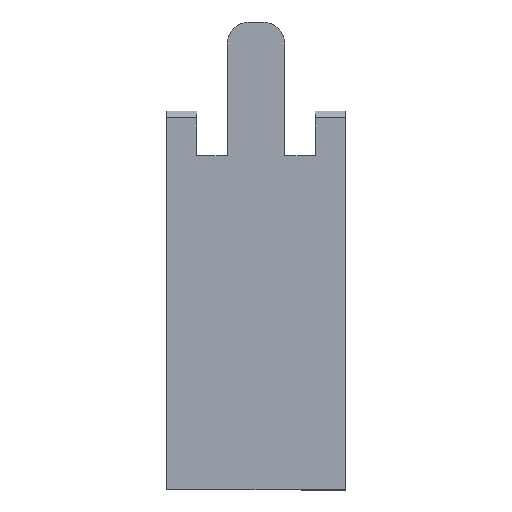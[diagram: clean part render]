
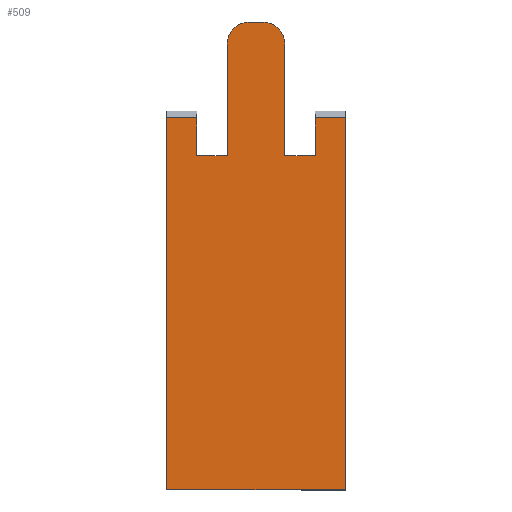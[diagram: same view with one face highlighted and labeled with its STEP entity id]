
A CAD part, top view. The second image highlights one B-rep face of the part: STEP entity #509.
In plain terms, the highlighted planar face has unit normal (0, 0, 1).
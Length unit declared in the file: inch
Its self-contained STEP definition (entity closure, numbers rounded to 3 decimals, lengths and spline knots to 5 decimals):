
#3 = VECTOR ( 'NONE', #367, 39.37008 ) ;
#5 = VECTOR ( 'NONE', #158, 39.37008 ) ;
#6 = CARTESIAN_POINT ( 'NONE',  ( -0.065, 1.4, 0.045 ) ) ;
#9 = CARTESIAN_POINT ( 'NONE',  ( 0.065, 1.15, 0.045 ) ) ;
#22 = DIRECTION ( 'NONE',  ( -1., 0., 0. ) ) ;
#33 = ORIENTED_EDGE ( 'NONE', *, *, #230, .T. ) ;
#36 = ORIENTED_EDGE ( 'NONE', *, *, #306, .T. ) ;
#38 = EDGE_LOOP ( 'NONE', ( #558, #574, #352, #36, #653, #572, #184, #580, #519, #494, #108, #110, #33, #214 ) ) ;
#39 = VECTOR ( 'NONE', #642, 39.37008 ) ;
#53 = LINE ( 'NONE', #397, #493 ) ;
#71 = DIRECTION ( 'NONE',  ( 0., -1., 0. ) ) ;
#75 = CARTESIAN_POINT ( 'NONE',  ( 0.1325, 1.235, 0.045 ) ) ;
#84 = DIRECTION ( 'NONE',  ( -1., 0., 0. ) ) ;
#100 = EDGE_CURVE ( 'NONE', #228, #526, #53, .T. ) ;
#106 = DIRECTION ( 'NONE',  ( 0., -1., 0. ) ) ;
#108 = ORIENTED_EDGE ( 'NONE', *, *, #536, .T. ) ;
#110 = ORIENTED_EDGE ( 'NONE', *, *, #100, .T. ) ;
#115 = LINE ( 'NONE', #274, #468 ) ;
#120 = DIRECTION ( 'NONE',  ( 1., 0., 0. ) ) ;
#126 = LINE ( 'NONE', #564, #39 ) ;
#127 = CARTESIAN_POINT ( 'NONE',  ( -0.015, 1.4, 0.045 ) ) ;
#129 = CIRCLE ( 'NONE', #469, 0.05 ) ;
#136 = DIRECTION ( 'NONE',  ( 0., 1., 0. ) ) ;
#142 = AXIS2_PLACEMENT_3D ( 'NONE', #501, #405, #247 ) ;
#145 = EDGE_CURVE ( 'NONE', #186, #583, #654, .T. ) ;
#146 = CARTESIAN_POINT ( 'NONE',  ( -0.065, 1.15, 0.045 ) ) ;
#158 = DIRECTION ( 'NONE',  ( 0., 1., 0. ) ) ;
#161 = CARTESIAN_POINT ( 'NONE',  ( -0.2, 1.235, 0.045 ) ) ;
#167 = VECTOR ( 'NONE', #22, 39.37008 ) ;
#171 = EDGE_CURVE ( 'NONE', #466, #502, #467, .T. ) ;
#180 = LINE ( 'NONE', #585, #492 ) ;
#181 = VECTOR ( 'NONE', #84, 39.37008 ) ;
#184 = ORIENTED_EDGE ( 'NONE', *, *, #413, .T. ) ;
#186 = VERTEX_POINT ( 'NONE', #9 ) ;
#195 = VERTEX_POINT ( 'NONE', #6 ) ;
#202 = DIRECTION ( 'NONE',  ( 0., -1., 0. ) ) ;
#204 = CARTESIAN_POINT ( 'NONE',  ( -0.1325, 1.235, 0.045 ) ) ;
#212 = LINE ( 'NONE', #613, #429 ) ;
#214 = ORIENTED_EDGE ( 'NONE', *, *, #541, .F. ) ;
#219 = AXIS2_PLACEMENT_3D ( 'NONE', #573, #312, #534 ) ;
#225 = CARTESIAN_POINT ( 'NONE',  ( -0.1325, 1.15, 0.045 ) ) ;
#228 = VERTEX_POINT ( 'NONE', #204 ) ;
#229 = LINE ( 'NONE', #318, #167 ) ;
#230 = EDGE_CURVE ( 'NONE', #526, #615, #212, .T. ) ;
#236 = CARTESIAN_POINT ( 'NONE',  ( 0.2, 0.4, 0.045 ) ) ;
#245 = CARTESIAN_POINT ( 'NONE',  ( 0.065, 1.25, 0.045 ) ) ;
#247 = DIRECTION ( 'NONE',  ( 1., 0., 0. ) ) ;
#260 = EDGE_CURVE ( 'NONE', #656, #309, #315, .T. ) ;
#274 = CARTESIAN_POINT ( 'NONE',  ( 0.2, 0.4, 0.045 ) ) ;
#295 = EDGE_CURVE ( 'NONE', #423, #195, #129, .T. ) ;
#297 = DIRECTION ( 'NONE',  ( -1., 0., 0. ) ) ;
#306 = EDGE_CURVE ( 'NONE', #502, #186, #229, .T. ) ;
#307 = VECTOR ( 'NONE', #425, 39.37008 ) ;
#309 = VERTEX_POINT ( 'NONE', #225 ) ;
#312 = DIRECTION ( 'NONE',  ( 0., 0., 1. ) ) ;
#315 = LINE ( 'NONE', #510, #3 ) ;
#318 = CARTESIAN_POINT ( 'NONE',  ( 0.065, 1.15, 0.045 ) ) ;
#323 = LINE ( 'NONE', #75, #307 ) ;
#330 = DIRECTION ( 'NONE',  ( 0., 0., 1. ) ) ;
#335 = EDGE_CURVE ( 'NONE', #195, #656, #570, .T. ) ;
#336 = LINE ( 'NONE', #537, #181 ) ;
#341 = CARTESIAN_POINT ( 'NONE',  ( 0.015, 1.45, 0.045 ) ) ;
#352 = ORIENTED_EDGE ( 'NONE', *, *, #171, .T. ) ;
#362 = CARTESIAN_POINT ( 'NONE',  ( 0.1325, 1.15, 0.045 ) ) ;
#367 = DIRECTION ( 'NONE',  ( -1., 0., 0. ) ) ;
#369 = CARTESIAN_POINT ( 'NONE',  ( 0.1325, 1.15, 0.045 ) ) ;
#370 = CIRCLE ( 'NONE', #142, 0.05 ) ;
#380 = EDGE_CURVE ( 'NONE', #597, #466, #323, .T. ) ;
#395 = CARTESIAN_POINT ( 'NONE',  ( 0.2, 1.235, 0.045 ) ) ;
#397 = CARTESIAN_POINT ( 'NONE',  ( -0.2, 1.235, 0.045 ) ) ;
#399 = EDGE_CURVE ( 'NONE', #637, #597, #180, .T. ) ;
#405 = DIRECTION ( 'NONE',  ( 0., 0., 1. ) ) ;
#413 = EDGE_CURVE ( 'NONE', #647, #423, #336, .T. ) ;
#423 = VERTEX_POINT ( 'NONE', #530 ) ;
#424 = CARTESIAN_POINT ( 'NONE',  ( 0.1325, 1.235, 0.045 ) ) ;
#425 = DIRECTION ( 'NONE',  ( -1., 0., 0. ) ) ;
#429 = VECTOR ( 'NONE', #106, 39.37008 ) ;
#466 = VERTEX_POINT ( 'NONE', #424 ) ;
#467 = LINE ( 'NONE', #362, #582 ) ;
#468 = VECTOR ( 'NONE', #478, 39.37008 ) ;
#469 = AXIS2_PLACEMENT_3D ( 'NONE', #127, #330, #120 ) ;
#472 = PLANE ( 'NONE',  #219 ) ;
#478 = DIRECTION ( 'NONE',  ( -1., 0., 0. ) ) ;
#492 = VECTOR ( 'NONE', #136, 39.37008 ) ;
#493 = VECTOR ( 'NONE', #297, 39.37008 ) ;
#494 = ORIENTED_EDGE ( 'NONE', *, *, #260, .T. ) ;
#495 = CARTESIAN_POINT ( 'NONE',  ( 0.065, 1.4, 0.045 ) ) ;
#501 = CARTESIAN_POINT ( 'NONE',  ( 0.015, 1.4, 0.045 ) ) ;
#502 = VERTEX_POINT ( 'NONE', #369 ) ;
#509 = ADVANCED_FACE ( 'NONE', ( #577 ), #472, .T. ) ;
#510 = CARTESIAN_POINT ( 'NONE',  ( -0.065, 1.15, 0.045 ) ) ;
#519 = ORIENTED_EDGE ( 'NONE', *, *, #335, .T. ) ;
#522 = CARTESIAN_POINT ( 'NONE',  ( -0.065, 1.25, 0.045 ) ) ;
#526 = VERTEX_POINT ( 'NONE', #161 ) ;
#530 = CARTESIAN_POINT ( 'NONE',  ( -0.015, 1.45, 0.045 ) ) ;
#534 = DIRECTION ( 'NONE',  ( 1., 0., 0. ) ) ;
#536 = EDGE_CURVE ( 'NONE', #309, #228, #126, .T. ) ;
#537 = CARTESIAN_POINT ( 'NONE',  ( 0.065, 1.45, 0.045 ) ) ;
#541 = EDGE_CURVE ( 'NONE', #637, #615, #115, .T. ) ;
#547 = CARTESIAN_POINT ( 'NONE',  ( -0.2, 0.4, 0.045 ) ) ;
#558 = ORIENTED_EDGE ( 'NONE', *, *, #399, .T. ) ;
#564 = CARTESIAN_POINT ( 'NONE',  ( -0.1325, 1.15, 0.045 ) ) ;
#569 = EDGE_CURVE ( 'NONE', #583, #647, #370, .T. ) ;
#570 = LINE ( 'NONE', #522, #630 ) ;
#572 = ORIENTED_EDGE ( 'NONE', *, *, #569, .T. ) ;
#573 = CARTESIAN_POINT ( 'NONE',  ( 0., 0., 0.045 ) ) ;
#574 = ORIENTED_EDGE ( 'NONE', *, *, #380, .T. ) ;
#577 = FACE_OUTER_BOUND ( 'NONE', #38, .T. ) ;
#580 = ORIENTED_EDGE ( 'NONE', *, *, #295, .T. ) ;
#582 = VECTOR ( 'NONE', #202, 39.37008 ) ;
#583 = VERTEX_POINT ( 'NONE', #495 ) ;
#585 = CARTESIAN_POINT ( 'NONE',  ( 0.2, 0., 0.045 ) ) ;
#597 = VERTEX_POINT ( 'NONE', #395 ) ;
#613 = CARTESIAN_POINT ( 'NONE',  ( -0.2, 1.25, 0.045 ) ) ;
#615 = VERTEX_POINT ( 'NONE', #547 ) ;
#630 = VECTOR ( 'NONE', #71, 39.37008 ) ;
#637 = VERTEX_POINT ( 'NONE', #236 ) ;
#642 = DIRECTION ( 'NONE',  ( 0., 1., 0. ) ) ;
#647 = VERTEX_POINT ( 'NONE', #341 ) ;
#653 = ORIENTED_EDGE ( 'NONE', *, *, #145, .T. ) ;
#654 = LINE ( 'NONE', #245, #5 ) ;
#656 = VERTEX_POINT ( 'NONE', #146 ) ;
